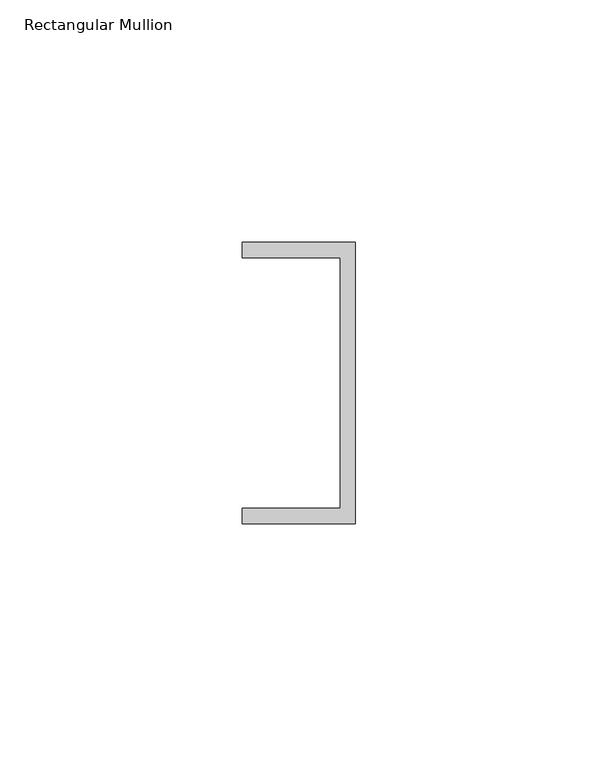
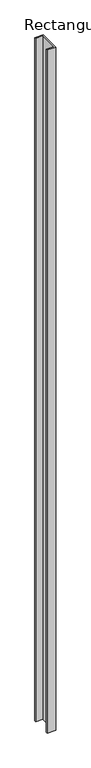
"""IFC4 building model written with IfcOpenShell, lengths in millimetres: member geometry, Rectangular Mullion : Frame-Teknion-Altos-Base_Channel."""

from ifc_helpers import new_model, si_unit, frame, origin, place, context, project, spatial, polyline, outline, extrude, source, transform, mapped, element, save


def rectangular_mullion_3d77bba8(model_context):
    return source(origin(), model_context, "Body", "SweptSolid", [
        extrude(outline(polyline([(0.0, 29.0214844), (0.0, -29.0214844), (-23.3164063, -29.0214844), (-23.3164063, -25.8464844), (-3.175, -25.8464844), (-3.175, 25.8464844), (-23.3164063, 25.8464844), (-23.3164063, 29.0214844), (0.0, 29.0214844)])), frame((0.0, 0.0, -1978.6203125), z_axis=(0.0, 0.0, 1.0), x_axis=(1.0, 0.0, 0.0)), (0.0, 0.0, 1.0), 1978.6203125),
    ])


if __name__ == "__main__":
    model = new_model("IFC4")
    model_context = context("Model", 3, world=origin())
    ifc_project = project(units=[si_unit("LENGTHUNIT", "METRE", prefix="MILLI")], contexts=[model_context])
    site = spatial("IfcSite", under=ifc_project)
    building = spatial("IfcBuilding", under=site)
    placement = place(None, origin())
    rectangular_mullion_shape = rectangular_mullion_3d77bba8(model_context)
    element("IfcMember", 1, ObjectType="Rectangular Mullion : Frame-Teknion-Altos-Base_Channel", at=placement, inside=building, context=model_context, shape_type="MappedRepresentation", body=[
        mapped(rectangular_mullion_shape, transform((0.0, 0.0, 0.0), x_axis=(1.0, 0.0, 0.0), y_axis=(0.0, 1.0, 0.0), z_axis=(0.0, 0.0, 1.0))),
    ])
    save(model, "model.ifc")
